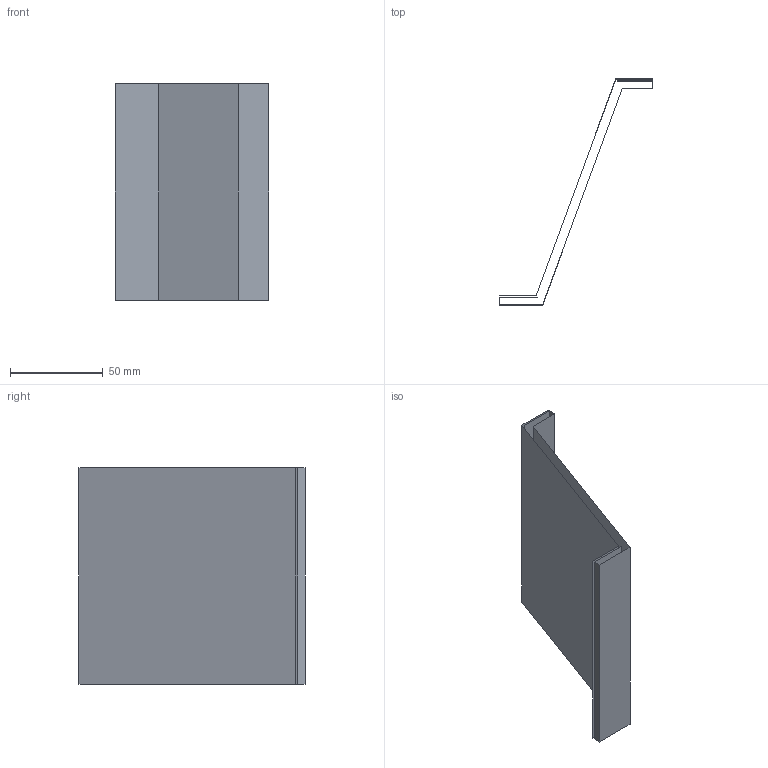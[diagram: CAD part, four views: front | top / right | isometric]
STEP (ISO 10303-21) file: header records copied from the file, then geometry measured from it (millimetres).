
FILE_DESCRIPTION(('CATIA V5 STEP Exchange'),'2;1');
FILE_NAME('C:\_Andres\UNIVERSIDAD\IQS\ASIGNATURAS\DAO\EXF\EXF-16172c\2inicio\Lopez_Triquell_Ej06_v17.stp','2017-03-05T21:01:25+00:00',('none'),('none'),'CATIA Version 5-6 Release 2014 SP1 HF18','CATIA V5 STEP AP203','none');
FILE_SCHEMA(('CONFIG_CONTROL_DESIGN'));
Length unit declared in the file: millimetre
Products named in the file (1): Lopez_Triquell_Ej06_v17
Bounding box: 83 x 122 x 117 mm (x, y, z)
Surface area: 44144.5 mm2 (no closed solid volume)
Topology: 0 solids, 2 shells, 10 faces, 42 edges, 36 vertices
Faces by surface type: plane 10
Entity records: 461 total; most frequent: CARTESIAN_POINT 100, DIRECTION 59, ORIENTED_EDGE 40, VECTOR 39, LINE 39, EDGE_CURVE 32, VERTEX_POINT 24, AXIS2_PLACEMENT_3D 11
